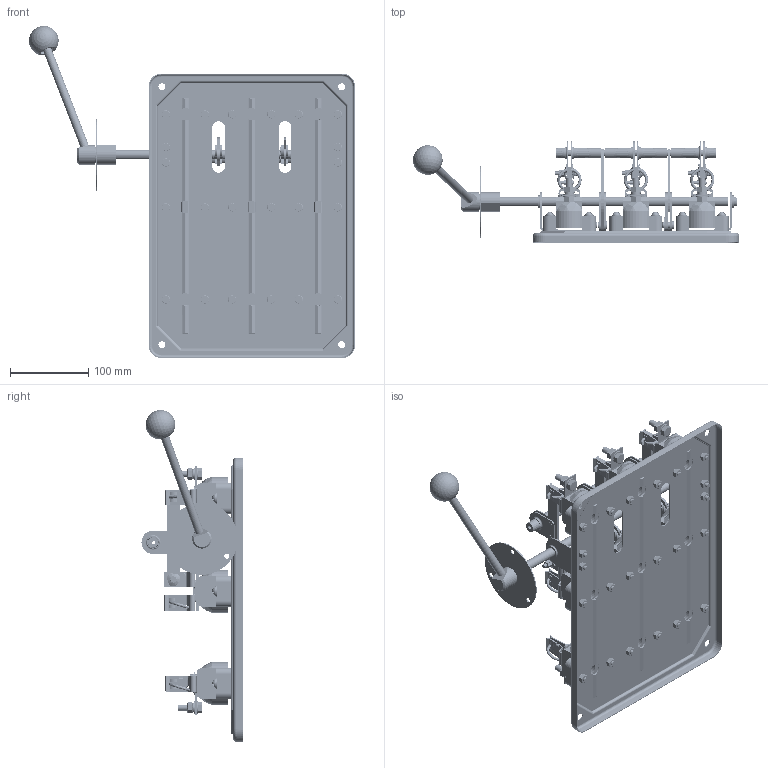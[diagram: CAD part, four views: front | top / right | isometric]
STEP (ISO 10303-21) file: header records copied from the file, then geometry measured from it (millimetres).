
FILE_DESCRIPTION (( 'STEP AP203' ), '1' );
FILE_NAME ('ﾐﾏﾁ-1ﾏ.STEP', '2016-03-25T10:36:05', ( 'user' ), ( '' ), 'SwSTEP 2.0', 'SolidWorks 2010', '' );
FILE_SCHEMA (( 'CONFIG_CONTROL_DESIGN' ));
Products named in the file (1): ﾐﾏﾁ-1ﾏ
Bounding box: 417.14 x 129.4 x 424.85 mm (x, y, z)
Surface area: 613070.7 mm2 (no closed solid volume)
Topology: 0 solids, 340 shells, 3173 faces, 9709 edges, 6731 vertices
Faces by surface type: plane 1611, cylinder 1195, cone 121, sphere 118, torus 74, bspline 54
Entity records: 117747 total; most frequent: CARTESIAN_POINT 31855, DIRECTION 18609, ORIENTED_EDGE 15964, EDGE_CURVE 9569, AXIS2_PLACEMENT_3D 7082, VERTEX_POINT 6656, LINE 4445, VECTOR 4445
